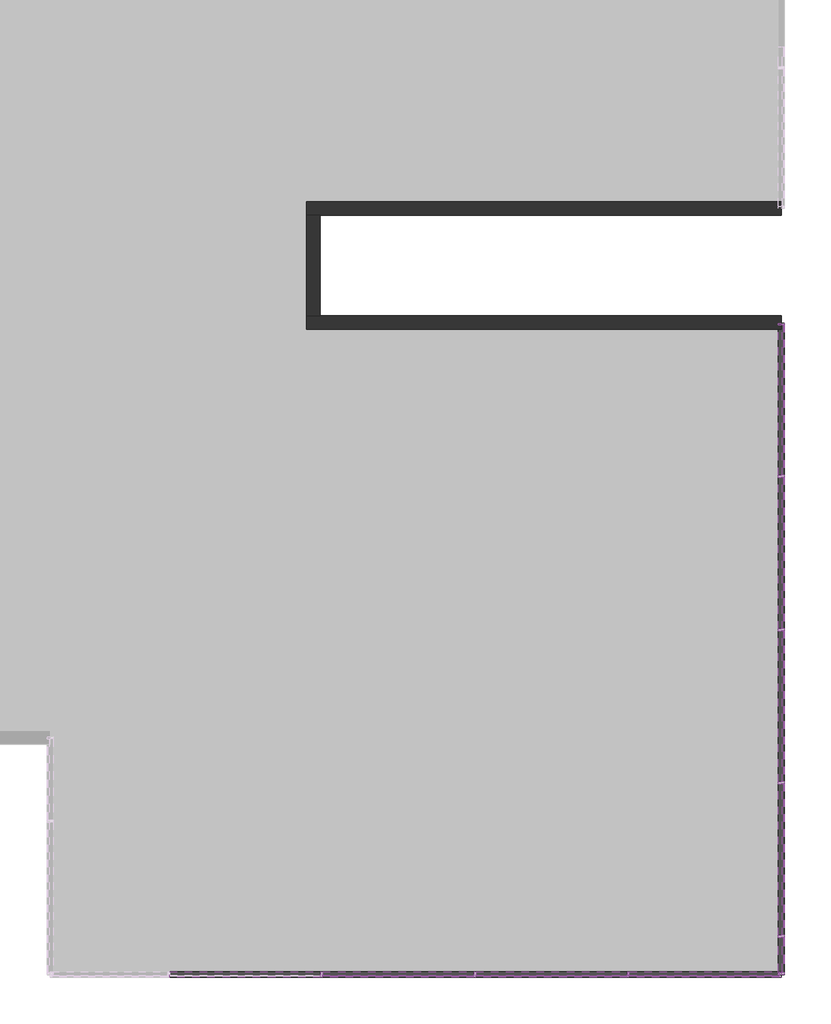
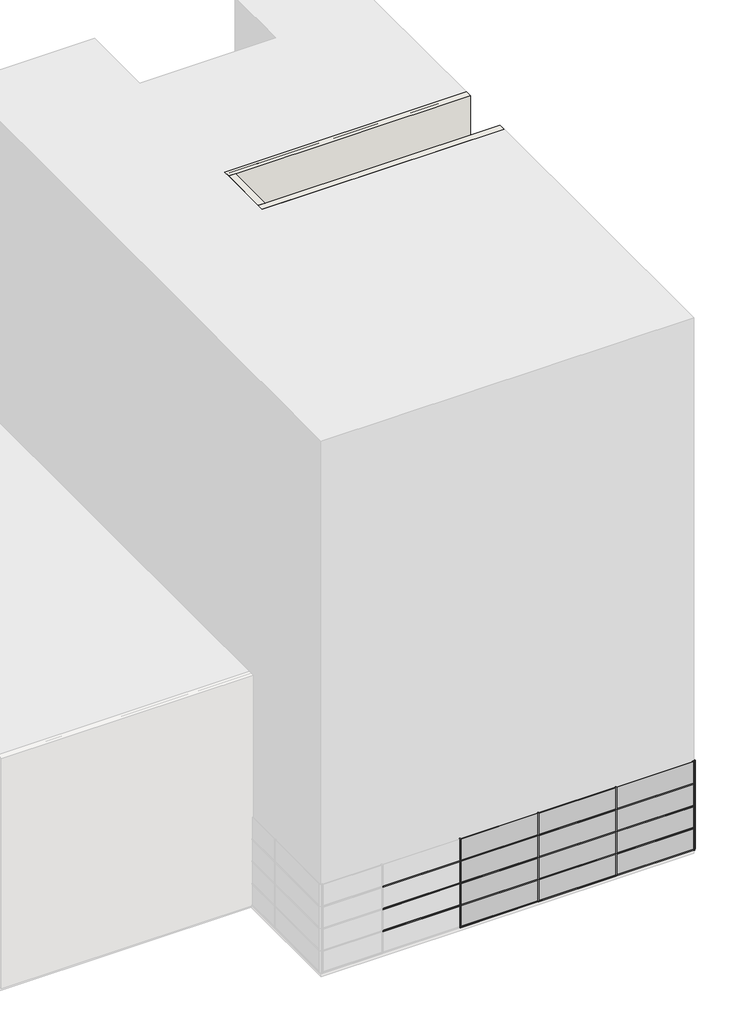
# One storey, part 2 of 4: 76 members, 32 plates, 3 walls.
"""IFC4 building model written with IfcOpenShell, lengths in millimetres."""

from ifc_helpers import new_model, si_unit, origin, origin_with_axes, place, context, project, spatial, polyline, outline, extrude, faceted_brep, transform, mapped, element, save
from components import rectangular_mullion_50_x_150mm_d99dc9be, rectangular_mullion_50_x_150mm_182bfbd5, rectangular_mullion_50_x_150mm_402ab136, rectangular_mullion_50_x_150mm_6588f46c, rectangular_mullion_50_x_150mm_a037c29c, rectangular_mullion_50_x_150mm_c2546fd4, rectangular_mullion_50_x_150mm_116cff39, rectangular_mullion_50_x_150mm_a91aaa2b, system_panel_glazed_ecbc047f, system_panel_glazed_0d1816dc, system_panel_glazed_8e9402eb, system_panel_glazed_89ac83a7, system_panel_glazed_88115445, system_panel_glazed_8c18451d

model = new_model("IFC4")

# Units and contexts
model_context = context("Model", 3, world=origin())
ifc_project = project(units=[si_unit("LENGTHUNIT", "METRE", prefix="MILLI")], contexts=[model_context])

# Site, building, storey
site = spatial("IfcSite", under=ifc_project)
building = spatial("IfcBuilding", under=site)
storey = spatial("IfcBuildingStorey", under=building, Name="Suteren", Elevation=0.0)

# Members
placement = place(None, origin())
rectangular_mullion_50_x_150mm_shape = rectangular_mullion_50_x_150mm_d99dc9be(model_context)
element("IfcMember", 1, ObjectType="Rectangular Mullion : 50 x 150mm", at=placement, inside=storey, context=model_context, shape_type="MappedRepresentation", body=[
    mapped(rectangular_mullion_50_x_150mm_shape, transform((13503.2660975, -10624.0160434, 2400.0), x_axis=(0.0, -1.0, 0.0), y_axis=(1.0, 0.0, 0.0), z_axis=(0.0, 0.0, 1.0))),
])
element("IfcMember", 2, ObjectType="Rectangular Mullion : 50 x 150mm", at=placement, inside=storey, context=model_context, shape_type="MappedRepresentation", body=[
    mapped(rectangular_mullion_50_x_150mm_shape, transform((13503.2660975, -10624.0160434, 3600.0), x_axis=(0.0, -1.0, 0.0), y_axis=(1.0, 0.0, 0.0), z_axis=(0.0, 0.0, 1.0))),
])
element("IfcMember", 3, ObjectType="Rectangular Mullion : 50 x 150mm", at=placement, inside=storey, context=model_context, shape_type="MappedRepresentation", body=[
    mapped(rectangular_mullion_50_x_150mm_shape, transform((13503.2660975, -10624.0160434, 4800.0), x_axis=(0.0, -1.0, 0.0), y_axis=(1.0, 0.0, 0.0), z_axis=(0.0, 0.0, 1.0))),
])
element("IfcMember", 4, ObjectType="Rectangular Mullion : 50 x 150mm", at=placement, inside=storey, context=model_context, shape_type="MappedRepresentation", body=[
    mapped(rectangular_mullion_50_x_150mm_shape, transform((13503.2660975, -14624.0160434, 2400.0), x_axis=(0.0, -1.0, 0.0), y_axis=(1.0, 0.0, 0.0), z_axis=(0.0, 0.0, 1.0))),
])
element("IfcMember", 5, ObjectType="Rectangular Mullion : 50 x 150mm", at=placement, inside=storey, context=model_context, shape_type="MappedRepresentation", body=[
    mapped(rectangular_mullion_50_x_150mm_shape, transform((13503.2660975, -14624.0160434, 3600.0), x_axis=(0.0, -1.0, 0.0), y_axis=(1.0, 0.0, 0.0), z_axis=(0.0, 0.0, 1.0))),
])
element("IfcMember", 6, ObjectType="Rectangular Mullion : 50 x 150mm", at=placement, inside=storey, context=model_context, shape_type="MappedRepresentation", body=[
    mapped(rectangular_mullion_50_x_150mm_shape, transform((13503.2660975, -14624.0160434, 4800.0), x_axis=(0.0, -1.0, 0.0), y_axis=(1.0, 0.0, 0.0), z_axis=(0.0, 0.0, 1.0))),
])
element("IfcMember", 7, ObjectType="Rectangular Mullion : 50 x 150mm", at=placement, inside=storey, context=model_context, shape_type="MappedRepresentation", body=[
    mapped(rectangular_mullion_50_x_150mm_shape, transform((13503.2660975, -18624.0160434, 2400.0), x_axis=(0.0, -1.0, 0.0), y_axis=(1.0, 0.0, 0.0), z_axis=(0.0, 0.0, 1.0))),
])
element("IfcMember", 8, ObjectType="Rectangular Mullion : 50 x 150mm", at=placement, inside=storey, context=model_context, shape_type="MappedRepresentation", body=[
    mapped(rectangular_mullion_50_x_150mm_shape, transform((13503.2660975, -18624.0160434, 3600.0), x_axis=(0.0, -1.0, 0.0), y_axis=(1.0, 0.0, 0.0), z_axis=(0.0, 0.0, 1.0))),
])
element("IfcMember", 9, ObjectType="Rectangular Mullion : 50 x 150mm", at=placement, inside=storey, context=model_context, shape_type="MappedRepresentation", body=[
    mapped(rectangular_mullion_50_x_150mm_shape, transform((13503.2660975, -18624.0160434, 4800.0), x_axis=(0.0, -1.0, 0.0), y_axis=(1.0, 0.0, 0.0), z_axis=(0.0, 0.0, 1.0))),
])
element("IfcMember", 10, ObjectType="Rectangular Mullion : 50 x 150mm", at=placement, inside=storey, context=model_context, shape_type="MappedRepresentation", body=[
    mapped(rectangular_mullion_50_x_150mm_shape, transform((13503.2660975, -22624.0160434, 2400.0), x_axis=(0.0, -1.0, 0.0), y_axis=(1.0, 0.0, 0.0), z_axis=(0.0, 0.0, 1.0))),
])
element("IfcMember", 11, ObjectType="Rectangular Mullion : 50 x 150mm", at=placement, inside=storey, context=model_context, shape_type="MappedRepresentation", body=[
    mapped(rectangular_mullion_50_x_150mm_shape, transform((13503.2660975, -22624.0160434, 3600.0), x_axis=(0.0, -1.0, 0.0), y_axis=(1.0, 0.0, 0.0), z_axis=(0.0, 0.0, 1.0))),
])
element("IfcMember", 12, ObjectType="Rectangular Mullion : 50 x 150mm", at=placement, inside=storey, context=model_context, shape_type="MappedRepresentation", body=[
    mapped(rectangular_mullion_50_x_150mm_shape, transform((13503.2660975, -22624.0160434, 4800.0), x_axis=(0.0, -1.0, 0.0), y_axis=(1.0, 0.0, 0.0), z_axis=(0.0, 0.0, 1.0))),
])
element("IfcMember", 13, ObjectType="Rectangular Mullion : 50 x 150mm", at=placement, inside=storey, context=model_context, shape_type="MappedRepresentation", body=[
    mapped(rectangular_mullion_50_x_150mm_shape, transform((9503.2660975, -23624.0160434, 2400.0), x_axis=(-1.0, 0.0, 0.0), y_axis=(0.0, -1.0, 0.0), z_axis=(0.0, 0.0, 1.0))),
])
element("IfcMember", 14, ObjectType="Rectangular Mullion : 50 x 150mm", at=placement, inside=storey, context=model_context, shape_type="MappedRepresentation", body=[
    mapped(rectangular_mullion_50_x_150mm_shape, transform((9503.2660975, -23624.0160434, 3600.0), x_axis=(-1.0, 0.0, 0.0), y_axis=(0.0, -1.0, 0.0), z_axis=(0.0, 0.0, 1.0))),
])
element("IfcMember", 15, ObjectType="Rectangular Mullion : 50 x 150mm", at=placement, inside=storey, context=model_context, shape_type="MappedRepresentation", body=[
    mapped(rectangular_mullion_50_x_150mm_shape, transform((9503.2660975, -23624.0160434, 4800.0), x_axis=(-1.0, 0.0, 0.0), y_axis=(0.0, -1.0, 0.0), z_axis=(0.0, 0.0, 1.0))),
])
element("IfcMember", 16, ObjectType="Rectangular Mullion : 50 x 150mm", at=placement, inside=storey, context=model_context, shape_type="MappedRepresentation", body=[
    mapped(rectangular_mullion_50_x_150mm_shape, transform((5503.2660975, -23624.0160434, 2400.0), x_axis=(-1.0, 0.0, 0.0), y_axis=(0.0, -1.0, 0.0), z_axis=(0.0, 0.0, 1.0))),
])
element("IfcMember", 17, ObjectType="Rectangular Mullion : 50 x 150mm", at=placement, inside=storey, context=model_context, shape_type="MappedRepresentation", body=[
    mapped(rectangular_mullion_50_x_150mm_shape, transform((5503.2660975, -23624.0160434, 3600.0), x_axis=(-1.0, 0.0, 0.0), y_axis=(0.0, -1.0, 0.0), z_axis=(0.0, 0.0, 1.0))),
])
element("IfcMember", 18, ObjectType="Rectangular Mullion : 50 x 150mm", at=placement, inside=storey, context=model_context, shape_type="MappedRepresentation", body=[
    mapped(rectangular_mullion_50_x_150mm_shape, transform((5503.2660975, -23624.0160434, 4800.0), x_axis=(-1.0, 0.0, 0.0), y_axis=(0.0, -1.0, 0.0), z_axis=(0.0, 0.0, 1.0))),
])
element("IfcMember", 19, ObjectType="Rectangular Mullion : 50 x 150mm", at=placement, inside=storey, context=model_context, shape_type="MappedRepresentation", body=[
    mapped(rectangular_mullion_50_x_150mm_shape, transform((1503.2660975, -23624.0160434, 2400.0), x_axis=(-1.0, 0.0, 0.0), y_axis=(0.0, -1.0, 0.0), z_axis=(0.0, 0.0, 1.0))),
])
element("IfcMember", 20, ObjectType="Rectangular Mullion : 50 x 150mm", at=placement, inside=storey, context=model_context, shape_type="MappedRepresentation", body=[
    mapped(rectangular_mullion_50_x_150mm_shape, transform((1503.2660975, -23624.0160434, 3600.0), x_axis=(-1.0, 0.0, 0.0), y_axis=(0.0, -1.0, 0.0), z_axis=(0.0, 0.0, 1.0))),
])
element("IfcMember", 21, ObjectType="Rectangular Mullion : 50 x 150mm", at=placement, inside=storey, context=model_context, shape_type="MappedRepresentation", body=[
    mapped(rectangular_mullion_50_x_150mm_shape, transform((1503.2660975, -23624.0160434, 4800.0), x_axis=(-1.0, 0.0, 0.0), y_axis=(0.0, -1.0, 0.0), z_axis=(0.0, 0.0, 1.0))),
])
element("IfcMember", 22, ObjectType="Rectangular Mullion : 50 x 150mm", at=placement, inside=storey, context=model_context, shape_type="MappedRepresentation", body=[
    mapped(rectangular_mullion_50_x_150mm_shape, transform((13503.2660975, -10624.0160434, 1200.0), x_axis=(0.0, -1.0, 0.0), y_axis=(1.0, 0.0, 0.0), z_axis=(0.0, 0.0, 1.0))),
])
element("IfcMember", 23, ObjectType="Rectangular Mullion : 50 x 150mm", at=placement, inside=storey, context=model_context, shape_type="MappedRepresentation", body=[
    mapped(rectangular_mullion_50_x_150mm_shape, transform((13503.2660975, -14624.0160434, 1200.0), x_axis=(0.0, -1.0, 0.0), y_axis=(1.0, 0.0, 0.0), z_axis=(0.0, 0.0, 1.0))),
])
element("IfcMember", 24, ObjectType="Rectangular Mullion : 50 x 150mm", at=placement, inside=storey, context=model_context, shape_type="MappedRepresentation", body=[
    mapped(rectangular_mullion_50_x_150mm_shape, transform((13503.2660975, -18624.0160434, 1200.0), x_axis=(0.0, -1.0, 0.0), y_axis=(1.0, 0.0, 0.0), z_axis=(0.0, 0.0, 1.0))),
])
element("IfcMember", 25, ObjectType="Rectangular Mullion : 50 x 150mm", at=placement, inside=storey, context=model_context, shape_type="MappedRepresentation", body=[
    mapped(rectangular_mullion_50_x_150mm_shape, transform((13503.2660975, -22624.0160434, 1200.0), x_axis=(0.0, -1.0, 0.0), y_axis=(1.0, 0.0, 0.0), z_axis=(0.0, 0.0, 1.0))),
])
element("IfcMember", 26, ObjectType="Rectangular Mullion : 50 x 150mm", at=placement, inside=storey, context=model_context, shape_type="MappedRepresentation", body=[
    mapped(rectangular_mullion_50_x_150mm_shape, transform((9503.2660975, -23624.0160434, 1200.0), x_axis=(-1.0, 0.0, 0.0), y_axis=(0.0, -1.0, 0.0), z_axis=(0.0, 0.0, 1.0))),
])
element("IfcMember", 27, ObjectType="Rectangular Mullion : 50 x 150mm", at=placement, inside=storey, context=model_context, shape_type="MappedRepresentation", body=[
    mapped(rectangular_mullion_50_x_150mm_shape, transform((5503.2660975, -23624.0160434, 1200.0), x_axis=(-1.0, 0.0, 0.0), y_axis=(0.0, -1.0, 0.0), z_axis=(0.0, 0.0, 1.0))),
])
element("IfcMember", 28, ObjectType="Rectangular Mullion : 50 x 150mm", at=placement, inside=storey, context=model_context, shape_type="MappedRepresentation", body=[
    mapped(rectangular_mullion_50_x_150mm_shape, transform((1503.2660975, -23624.0160434, 1200.0), x_axis=(-1.0, 0.0, 0.0), y_axis=(0.0, -1.0, 0.0), z_axis=(0.0, 0.0, 1.0))),
])
rectangular_mullion_50_x_150mm_2_shape = rectangular_mullion_50_x_150mm_182bfbd5(model_context)
element("IfcMember", 29, ObjectType="Rectangular Mullion : 50 x 150mm", at=placement, inside=storey, context=model_context, shape_type="MappedRepresentation", body=[
    mapped(rectangular_mullion_50_x_150mm_2_shape, transform((13503.2660975, -14599.0160434, 0.0), x_axis=(0.0, 0.0, -1.0), y_axis=(1.0, 0.0, 0.0), z_axis=(0.0, -1.0, 0.0))),
])
element("IfcMember", 30, ObjectType="Rectangular Mullion : 50 x 150mm", at=placement, inside=storey, context=model_context, shape_type="MappedRepresentation", body=[
    mapped(rectangular_mullion_50_x_150mm_2_shape, transform((13503.2660975, -18599.0160434, 0.0), x_axis=(0.0, 0.0, -1.0), y_axis=(1.0, 0.0, 0.0), z_axis=(0.0, -1.0, 0.0))),
])
element("IfcMember", 31, ObjectType="Rectangular Mullion : 50 x 150mm", at=placement, inside=storey, context=model_context, shape_type="MappedRepresentation", body=[
    mapped(rectangular_mullion_50_x_150mm_2_shape, transform((13503.2660975, -22599.0160434, 0.0), x_axis=(0.0, 0.0, -1.0), y_axis=(1.0, 0.0, 0.0), z_axis=(0.0, -1.0, 0.0))),
])
element("IfcMember", 32, ObjectType="Rectangular Mullion : 50 x 150mm", at=placement, inside=storey, context=model_context, shape_type="MappedRepresentation", body=[
    mapped(rectangular_mullion_50_x_150mm_2_shape, transform((5528.2660975, -23624.0160434, 0.0), x_axis=(0.0, 0.0, -1.0), y_axis=(0.0, -1.0, 0.0), z_axis=(-1.0, 0.0, 0.0))),
])
element("IfcMember", 33, ObjectType="Rectangular Mullion : 50 x 150mm", at=placement, inside=storey, context=model_context, shape_type="MappedRepresentation", body=[
    mapped(rectangular_mullion_50_x_150mm_2_shape, transform((1528.2660975, -23624.0160434, 0.0), x_axis=(0.0, 0.0, -1.0), y_axis=(0.0, -1.0, 0.0), z_axis=(-1.0, 0.0, 0.0))),
])
rectangular_mullion_50_x_150mm_3_shape = rectangular_mullion_50_x_150mm_402ab136(model_context)
element("IfcMember", 34, ObjectType="Rectangular Mullion : 50 x 150mm", at=placement, inside=storey, context=model_context, shape_type="MappedRepresentation", body=[
    mapped(rectangular_mullion_50_x_150mm_3_shape, transform((13503.2660975, -10599.0160434, 0.0), x_axis=(0.0, 0.0, -1.0), y_axis=(1.0, 0.0, 0.0), z_axis=(0.0, -1.0, 0.0))),
])
element("IfcMember", 35, ObjectType="Rectangular Mullion : 50 x 150mm", at=placement, inside=storey, context=model_context, shape_type="MappedRepresentation", body=[
    mapped(rectangular_mullion_50_x_150mm_3_shape, transform((9528.2660975, -23624.0160434, 0.0), x_axis=(0.0, 0.0, -1.0), y_axis=(0.0, -1.0, 0.0), z_axis=(-1.0, 0.0, 0.0))),
])
rectangular_mullion_50_x_150mm_4_shape = rectangular_mullion_50_x_150mm_6588f46c(model_context)
element("IfcMember", 36, ObjectType="Rectangular Mullion : 50 x 150mm", at=placement, inside=storey, context=model_context, shape_type="MappedRepresentation", body=[
    mapped(rectangular_mullion_50_x_150mm_4_shape, transform((13503.2660975, -3624.0160434, 4800.0), x_axis=(0.0, -1.0, 0.0), y_axis=(1.0, 0.0, 0.0), z_axis=(0.0, 0.0, 1.0))),
])
element("IfcMember", 37, ObjectType="Rectangular Mullion : 50 x 150mm", at=placement, inside=storey, context=model_context, shape_type="MappedRepresentation", body=[
    mapped(rectangular_mullion_50_x_150mm_4_shape, transform((13503.2660975, -23624.0160434, 2400.0), x_axis=(0.0, -1.0, 0.0), y_axis=(1.0, 0.0, 0.0), z_axis=(0.0, 0.0, 1.0))),
])
element("IfcMember", 38, ObjectType="Rectangular Mullion : 50 x 150mm", at=placement, inside=storey, context=model_context, shape_type="MappedRepresentation", body=[
    mapped(rectangular_mullion_50_x_150mm_4_shape, transform((13503.2660975, -23624.0160434, 3600.0), x_axis=(0.0, -1.0, 0.0), y_axis=(1.0, 0.0, 0.0), z_axis=(0.0, 0.0, 1.0))),
])
element("IfcMember", 39, ObjectType="Rectangular Mullion : 50 x 150mm", at=placement, inside=storey, context=model_context, shape_type="MappedRepresentation", body=[
    mapped(rectangular_mullion_50_x_150mm_4_shape, transform((13503.2660975, -23624.0160434, 4800.0), x_axis=(0.0, -1.0, 0.0), y_axis=(1.0, 0.0, 0.0), z_axis=(0.0, 0.0, 1.0))),
])
element("IfcMember", 40, ObjectType="Rectangular Mullion : 50 x 150mm", at=placement, inside=storey, context=model_context, shape_type="MappedRepresentation", body=[
    mapped(rectangular_mullion_50_x_150mm_4_shape, transform((13503.2660975, -23624.0160434, 1200.0), x_axis=(0.0, -1.0, 0.0), y_axis=(1.0, 0.0, 0.0), z_axis=(0.0, 0.0, 1.0))),
])
rectangular_mullion_50_x_150mm_5_shape = rectangular_mullion_50_x_150mm_a037c29c(model_context)
element("IfcMember", 41, ObjectType="Rectangular Mullion : 50 x 150mm", at=placement, inside=storey, context=model_context, shape_type="MappedRepresentation", body=[
    mapped(rectangular_mullion_50_x_150mm_5_shape, transform((13503.2660975, -14649.0160434, 1200.0), x_axis=(0.0, 0.0, 1.0), y_axis=(1.0, 0.0, 0.0), z_axis=(0.0, 1.0, 0.0))),
])
element("IfcMember", 42, ObjectType="Rectangular Mullion : 50 x 150mm", at=placement, inside=storey, context=model_context, shape_type="MappedRepresentation", body=[
    mapped(rectangular_mullion_50_x_150mm_5_shape, transform((13503.2660975, -10649.0160434, 1200.0), x_axis=(0.0, 0.0, 1.0), y_axis=(1.0, 0.0, 0.0), z_axis=(0.0, 1.0, 0.0))),
])
element("IfcMember", 43, ObjectType="Rectangular Mullion : 50 x 150mm", at=placement, inside=storey, context=model_context, shape_type="MappedRepresentation", body=[
    mapped(rectangular_mullion_50_x_150mm_5_shape, transform((13503.2660975, -18649.0160434, 3600.0), x_axis=(0.0, 0.0, 1.0), y_axis=(1.0, 0.0, 0.0), z_axis=(0.0, 1.0, 0.0))),
])
element("IfcMember", 44, ObjectType="Rectangular Mullion : 50 x 150mm", at=placement, inside=storey, context=model_context, shape_type="MappedRepresentation", body=[
    mapped(rectangular_mullion_50_x_150mm_5_shape, transform((13503.2660975, -18649.0160434, 1200.0), x_axis=(0.0, 0.0, 1.0), y_axis=(1.0, 0.0, 0.0), z_axis=(0.0, 1.0, 0.0))),
])
element("IfcMember", 45, ObjectType="Rectangular Mullion : 50 x 150mm", at=placement, inside=storey, context=model_context, shape_type="MappedRepresentation", body=[
    mapped(rectangular_mullion_50_x_150mm_5_shape, transform((13503.2660975, -10649.0160434, 2400.0), x_axis=(0.0, 0.0, 1.0), y_axis=(1.0, 0.0, 0.0), z_axis=(0.0, 1.0, 0.0))),
])
element("IfcMember", 46, ObjectType="Rectangular Mullion : 50 x 150mm", at=placement, inside=storey, context=model_context, shape_type="MappedRepresentation", body=[
    mapped(rectangular_mullion_50_x_150mm_5_shape, transform((13503.2660975, -14649.0160434, 2400.0), x_axis=(0.0, 0.0, 1.0), y_axis=(1.0, 0.0, 0.0), z_axis=(0.0, 1.0, 0.0))),
])
element("IfcMember", 47, ObjectType="Rectangular Mullion : 50 x 150mm", at=placement, inside=storey, context=model_context, shape_type="MappedRepresentation", body=[
    mapped(rectangular_mullion_50_x_150mm_5_shape, transform((13503.2660975, -18649.0160434, 2400.0), x_axis=(0.0, 0.0, 1.0), y_axis=(1.0, 0.0, 0.0), z_axis=(0.0, 1.0, 0.0))),
])
element("IfcMember", 48, ObjectType="Rectangular Mullion : 50 x 150mm", at=placement, inside=storey, context=model_context, shape_type="MappedRepresentation", body=[
    mapped(rectangular_mullion_50_x_150mm_5_shape, transform((13503.2660975, -10649.0160434, 3600.0), x_axis=(0.0, 0.0, 1.0), y_axis=(1.0, 0.0, 0.0), z_axis=(0.0, 1.0, 0.0))),
])
element("IfcMember", 49, ObjectType="Rectangular Mullion : 50 x 150mm", at=placement, inside=storey, context=model_context, shape_type="MappedRepresentation", body=[
    mapped(rectangular_mullion_50_x_150mm_5_shape, transform((13503.2660975, -14649.0160434, 3600.0), x_axis=(0.0, 0.0, 1.0), y_axis=(1.0, 0.0, 0.0), z_axis=(0.0, 1.0, 0.0))),
])
element("IfcMember", 50, ObjectType="Rectangular Mullion : 50 x 150mm", at=placement, inside=storey, context=model_context, shape_type="MappedRepresentation", body=[
    mapped(rectangular_mullion_50_x_150mm_5_shape, transform((5478.2660975, -23624.0160434, 3600.0), x_axis=(0.0, 0.0, 1.0), y_axis=(0.0, -1.0, 0.0), z_axis=(1.0, 0.0, 0.0))),
])
element("IfcMember", 51, ObjectType="Rectangular Mullion : 50 x 150mm", at=placement, inside=storey, context=model_context, shape_type="MappedRepresentation", body=[
    mapped(rectangular_mullion_50_x_150mm_5_shape, transform((1478.2660975, -23624.0160434, 3600.0), x_axis=(0.0, 0.0, 1.0), y_axis=(0.0, -1.0, 0.0), z_axis=(1.0, 0.0, 0.0))),
])
element("IfcMember", 52, ObjectType="Rectangular Mullion : 50 x 150mm", at=placement, inside=storey, context=model_context, shape_type="MappedRepresentation", body=[
    mapped(rectangular_mullion_50_x_150mm_5_shape, transform((5478.2660975, -23624.0160434, 1200.0), x_axis=(0.0, 0.0, 1.0), y_axis=(0.0, -1.0, 0.0), z_axis=(1.0, 0.0, 0.0))),
])
element("IfcMember", 53, ObjectType="Rectangular Mullion : 50 x 150mm", at=placement, inside=storey, context=model_context, shape_type="MappedRepresentation", body=[
    mapped(rectangular_mullion_50_x_150mm_5_shape, transform((1478.2660975, -23624.0160434, 1200.0), x_axis=(0.0, 0.0, 1.0), y_axis=(0.0, -1.0, 0.0), z_axis=(1.0, 0.0, 0.0))),
])
element("IfcMember", 54, ObjectType="Rectangular Mullion : 50 x 150mm", at=placement, inside=storey, context=model_context, shape_type="MappedRepresentation", body=[
    mapped(rectangular_mullion_50_x_150mm_5_shape, transform((9478.2660975, -23624.0160434, 2400.0), x_axis=(0.0, 0.0, 1.0), y_axis=(0.0, -1.0, 0.0), z_axis=(1.0, 0.0, 0.0))),
])
element("IfcMember", 55, ObjectType="Rectangular Mullion : 50 x 150mm", at=placement, inside=storey, context=model_context, shape_type="MappedRepresentation", body=[
    mapped(rectangular_mullion_50_x_150mm_5_shape, transform((5478.2660975, -23624.0160434, 2400.0), x_axis=(0.0, 0.0, 1.0), y_axis=(0.0, -1.0, 0.0), z_axis=(1.0, 0.0, 0.0))),
])
element("IfcMember", 56, ObjectType="Rectangular Mullion : 50 x 150mm", at=placement, inside=storey, context=model_context, shape_type="MappedRepresentation", body=[
    mapped(rectangular_mullion_50_x_150mm_5_shape, transform((1478.2660975, -23624.0160434, 2400.0), x_axis=(0.0, 0.0, 1.0), y_axis=(0.0, -1.0, 0.0), z_axis=(1.0, 0.0, 0.0))),
])
element("IfcMember", 57, ObjectType="Rectangular Mullion : 50 x 150mm", at=placement, inside=storey, context=model_context, shape_type="MappedRepresentation", body=[
    mapped(rectangular_mullion_50_x_150mm_5_shape, transform((9478.2660975, -23624.0160434, 3600.0), x_axis=(0.0, 0.0, 1.0), y_axis=(0.0, -1.0, 0.0), z_axis=(1.0, 0.0, 0.0))),
])
element("IfcMember", 58, ObjectType="Rectangular Mullion : 50 x 150mm", at=placement, inside=storey, context=model_context, shape_type="MappedRepresentation", body=[
    mapped(rectangular_mullion_50_x_150mm_5_shape, transform((9478.2660975, -23624.0160434, 1200.0), x_axis=(0.0, 0.0, 1.0), y_axis=(0.0, -1.0, 0.0), z_axis=(1.0, 0.0, 0.0))),
])
rectangular_mullion_50_x_150mm_6_shape = rectangular_mullion_50_x_150mm_c2546fd4(model_context)
element("IfcMember", 59, ObjectType="Rectangular Mullion : 50 x 150mm", at=placement, inside=storey, context=model_context, shape_type="MappedRepresentation", body=[
    mapped(rectangular_mullion_50_x_150mm_6_shape, transform((13503.2660975, -6674.0160434, 1200.0), x_axis=(0.0, 0.0, 1.0), y_axis=(1.0, 0.0, 0.0), z_axis=(0.0, 1.0, 0.0))),
])
element("IfcMember", 60, ObjectType="Rectangular Mullion : 50 x 150mm", at=placement, inside=storey, context=model_context, shape_type="MappedRepresentation", body=[
    mapped(rectangular_mullion_50_x_150mm_6_shape, transform((13503.2660975, -6674.0160434, 2400.0), x_axis=(0.0, 0.0, 1.0), y_axis=(1.0, 0.0, 0.0), z_axis=(0.0, 1.0, 0.0))),
])
element("IfcMember", 61, ObjectType="Rectangular Mullion : 50 x 150mm", at=placement, inside=storey, context=model_context, shape_type="MappedRepresentation", body=[
    mapped(rectangular_mullion_50_x_150mm_6_shape, transform((13503.2660975, -6674.0160434, 3600.0), x_axis=(0.0, 0.0, 1.0), y_axis=(1.0, 0.0, 0.0), z_axis=(0.0, 1.0, 0.0))),
])
element("IfcMember", 62, ObjectType="Rectangular Mullion : 50 x 150mm", at=placement, inside=storey, context=model_context, shape_type="MappedRepresentation", body=[
    mapped(rectangular_mullion_50_x_150mm_6_shape, transform((13453.2660975, -23624.0160434, 2400.0), x_axis=(0.0, 0.0, 1.0), y_axis=(0.0, -1.0, 0.0), z_axis=(1.0, 0.0, 0.0))),
])
element("IfcMember", 63, ObjectType="Rectangular Mullion : 50 x 150mm", at=placement, inside=storey, context=model_context, shape_type="MappedRepresentation", body=[
    mapped(rectangular_mullion_50_x_150mm_6_shape, transform((13453.2660975, -23624.0160434, 3600.0), x_axis=(0.0, 0.0, 1.0), y_axis=(0.0, -1.0, 0.0), z_axis=(1.0, 0.0, 0.0))),
])
element("IfcMember", 64, ObjectType="Rectangular Mullion : 50 x 150mm", at=placement, inside=storey, context=model_context, shape_type="MappedRepresentation", body=[
    mapped(rectangular_mullion_50_x_150mm_6_shape, transform((13453.2660975, -23624.0160434, 1200.0), x_axis=(0.0, 0.0, 1.0), y_axis=(0.0, -1.0, 0.0), z_axis=(1.0, 0.0, 0.0))),
])
element("IfcMember", 65, ObjectType="Rectangular Mullion : 50 x 150mm", at=placement, inside=storey, context=model_context, shape_type="MappedRepresentation", body=[
    mapped(rectangular_mullion_50_x_150mm_4_shape, transform((13503.2660975, -6624.0160434, 1200.0), x_axis=(0.0, 1.0, 0.0), y_axis=(1.0, 0.0, 0.0), z_axis=(0.0, 0.0, -1.0))),
])
element("IfcMember", 66, ObjectType="Rectangular Mullion : 50 x 150mm", at=placement, inside=storey, context=model_context, shape_type="MappedRepresentation", body=[
    mapped(rectangular_mullion_50_x_150mm_4_shape, transform((13503.2660975, -6624.0160434, 2400.0), x_axis=(0.0, 1.0, 0.0), y_axis=(1.0, 0.0, 0.0), z_axis=(0.0, 0.0, -1.0))),
])
element("IfcMember", 67, ObjectType="Rectangular Mullion : 50 x 150mm", at=placement, inside=storey, context=model_context, shape_type="MappedRepresentation", body=[
    mapped(rectangular_mullion_50_x_150mm_4_shape, transform((13503.2660975, -6624.0160434, 3600.0), x_axis=(0.0, 1.0, 0.0), y_axis=(1.0, 0.0, 0.0), z_axis=(0.0, 0.0, -1.0))),
])
element("IfcMember", 68, ObjectType="Rectangular Mullion : 50 x 150mm", at=placement, inside=storey, context=model_context, shape_type="MappedRepresentation", body=[
    mapped(rectangular_mullion_50_x_150mm_4_shape, transform((13503.2660975, -23624.0160434, 1200.0), x_axis=(1.0, 0.0, 0.0), y_axis=(0.0, -1.0, 0.0), z_axis=(0.0, 0.0, -1.0))),
])
element("IfcMember", 69, ObjectType="Rectangular Mullion : 50 x 150mm", at=placement, inside=storey, context=model_context, shape_type="MappedRepresentation", body=[
    mapped(rectangular_mullion_50_x_150mm_4_shape, transform((13503.2660975, -23624.0160434, 2400.0), x_axis=(1.0, 0.0, 0.0), y_axis=(0.0, -1.0, 0.0), z_axis=(0.0, 0.0, -1.0))),
])
element("IfcMember", 70, ObjectType="Rectangular Mullion : 50 x 150mm", at=placement, inside=storey, context=model_context, shape_type="MappedRepresentation", body=[
    mapped(rectangular_mullion_50_x_150mm_4_shape, transform((13503.2660975, -23624.0160434, 3600.0), x_axis=(1.0, 0.0, 0.0), y_axis=(0.0, -1.0, 0.0), z_axis=(0.0, 0.0, -1.0))),
])
element("IfcMember", 71, ObjectType="Rectangular Mullion : 50 x 150mm", at=placement, inside=storey, context=model_context, shape_type="MappedRepresentation", body=[
    mapped(rectangular_mullion_50_x_150mm_4_shape, transform((13503.2660975, -6624.0160434, 0.0), x_axis=(0.0, 1.0, 0.0), y_axis=(1.0, 0.0, 0.0), z_axis=(0.0, 0.0, -1.0))),
])
element("IfcMember", 72, ObjectType="Rectangular Mullion : 50 x 150mm", at=placement, inside=storey, context=model_context, shape_type="MappedRepresentation", body=[
    mapped(rectangular_mullion_50_x_150mm_4_shape, transform((13503.2660975, -23624.0160434, 0.0), x_axis=(1.0, 0.0, 0.0), y_axis=(0.0, -1.0, 0.0), z_axis=(0.0, 0.0, -1.0))),
])
rectangular_mullion_50_x_150mm_7_shape = rectangular_mullion_50_x_150mm_116cff39(model_context)
element("IfcMember", 73, ObjectType="Rectangular Mullion : 50 x 150mm", at=placement, inside=storey, context=model_context, shape_type="MappedRepresentation", body=[
    mapped(rectangular_mullion_50_x_150mm_7_shape, transform((13503.2660975, -22649.0160434, 3600.0), x_axis=(0.0, 0.0, 1.0), y_axis=(1.0, 0.0, 0.0), z_axis=(0.0, 1.0, 0.0))),
])
element("IfcMember", 74, ObjectType="Rectangular Mullion : 50 x 150mm", at=placement, inside=storey, context=model_context, shape_type="MappedRepresentation", body=[
    mapped(rectangular_mullion_50_x_150mm_7_shape, transform((13503.2660975, -22649.0160434, 1200.0), x_axis=(0.0, 0.0, 1.0), y_axis=(1.0, 0.0, 0.0), z_axis=(0.0, 1.0, 0.0))),
])
element("IfcMember", 75, ObjectType="Rectangular Mullion : 50 x 150mm", at=placement, inside=storey, context=model_context, shape_type="MappedRepresentation", body=[
    mapped(rectangular_mullion_50_x_150mm_7_shape, transform((13503.2660975, -22649.0160434, 2400.0), x_axis=(0.0, 0.0, 1.0), y_axis=(1.0, 0.0, 0.0), z_axis=(0.0, 1.0, 0.0))),
])
rectangular_mullion_50_x_150mm_8_shape = rectangular_mullion_50_x_150mm_a91aaa2b(model_context)
element("IfcMember", 76, ObjectType="Rectangular Mullion : 50 x 150mm", at=placement, inside=storey, context=model_context, shape_type="MappedRepresentation", body=[
    mapped(rectangular_mullion_50_x_150mm_8_shape, transform((13503.2660975, -23574.0160434, 0.0), x_axis=(0.0, 0.0, -1.0), y_axis=(1.0, 0.0, 0.0), z_axis=(0.0, -1.0, 0.0))),
])

# Plates
system_panel_glazed_shape = system_panel_glazed_ecbc047f(model_context)
element("IfcPlate", 77, ObjectType="System Panel : Glazed", at=placement, inside=storey, context=model_context, shape_type="MappedRepresentation", body=[
    mapped(system_panel_glazed_shape, transform((11490.7660975, -23624.0160434, 50.0), x_axis=(-1.0, 0.0, 0.0), y_axis=(0.0, -1.0, 0.0), z_axis=(0.0, 0.0, 1.0))),
])
element("IfcPlate", 78, ObjectType="System Panel : Glazed", at=placement, inside=storey, context=model_context, shape_type="MappedRepresentation", body=[
    mapped(system_panel_glazed_shape, transform((13503.2660975, -8636.5160434, 50.0), x_axis=(0.0, -1.0, 0.0), y_axis=(1.0, 0.0, 0.0), z_axis=(0.0, 0.0, 1.0))),
])
system_panel_glazed_2_shape = system_panel_glazed_0d1816dc(model_context)
element("IfcPlate", 79, ObjectType="System Panel : Glazed", at=placement, inside=storey, context=model_context, shape_type="MappedRepresentation", body=[
    mapped(system_panel_glazed_2_shape, transform((7503.2660975, -23624.0160434, 50.0), x_axis=(-1.0, 0.0, 0.0), y_axis=(0.0, -1.0, 0.0), z_axis=(0.0, 0.0, 1.0))),
])
element("IfcPlate", 80, ObjectType="System Panel : Glazed", at=placement, inside=storey, context=model_context, shape_type="MappedRepresentation", body=[
    mapped(system_panel_glazed_2_shape, transform((3503.2660975, -23624.0160434, 50.0), x_axis=(-1.0, 0.0, 0.0), y_axis=(0.0, -1.0, 0.0), z_axis=(0.0, 0.0, 1.0))),
])
element("IfcPlate", 81, ObjectType="System Panel : Glazed", at=placement, inside=storey, context=model_context, shape_type="MappedRepresentation", body=[
    mapped(system_panel_glazed_2_shape, transform((13503.2660975, -12624.0160434, 50.0), x_axis=(0.0, -1.0, 0.0), y_axis=(1.0, 0.0, 0.0), z_axis=(0.0, 0.0, 1.0))),
])
element("IfcPlate", 82, ObjectType="System Panel : Glazed", at=placement, inside=storey, context=model_context, shape_type="MappedRepresentation", body=[
    mapped(system_panel_glazed_2_shape, transform((13503.2660975, -16624.0160434, 50.0), x_axis=(0.0, -1.0, 0.0), y_axis=(1.0, 0.0, 0.0), z_axis=(0.0, 0.0, 1.0))),
])
element("IfcPlate", 83, ObjectType="System Panel : Glazed", at=placement, inside=storey, context=model_context, shape_type="MappedRepresentation", body=[
    mapped(system_panel_glazed_2_shape, transform((13503.2660975, -20624.0160434, 50.0), x_axis=(0.0, -1.0, 0.0), y_axis=(1.0, 0.0, 0.0), z_axis=(0.0, 0.0, 1.0))),
])
system_panel_glazed_3_shape = system_panel_glazed_8e9402eb(model_context)
element("IfcPlate", 84, ObjectType="System Panel : Glazed", at=placement, inside=storey, context=model_context, shape_type="MappedRepresentation", body=[
    mapped(system_panel_glazed_3_shape, transform((11490.7660975, -23624.0160434, 1225.0), x_axis=(-1.0, 0.0, 0.0), y_axis=(0.0, -1.0, 0.0), z_axis=(0.0, 0.0, 1.0))),
])
element("IfcPlate", 85, ObjectType="System Panel : Glazed", at=placement, inside=storey, context=model_context, shape_type="MappedRepresentation", body=[
    mapped(system_panel_glazed_3_shape, transform((11490.7660975, -23624.0160434, 2425.0), x_axis=(-1.0, 0.0, 0.0), y_axis=(0.0, -1.0, 0.0), z_axis=(0.0, 0.0, 1.0))),
])
element("IfcPlate", 86, ObjectType="System Panel : Glazed", at=placement, inside=storey, context=model_context, shape_type="MappedRepresentation", body=[
    mapped(system_panel_glazed_3_shape, transform((11490.7660975, -23624.0160434, 3625.0), x_axis=(-1.0, 0.0, 0.0), y_axis=(0.0, -1.0, 0.0), z_axis=(0.0, 0.0, 1.0))),
])
element("IfcPlate", 87, ObjectType="System Panel : Glazed", at=placement, inside=storey, context=model_context, shape_type="MappedRepresentation", body=[
    mapped(system_panel_glazed_3_shape, transform((13503.2660975, -8636.5160434, 1225.0), x_axis=(0.0, -1.0, 0.0), y_axis=(1.0, 0.0, 0.0), z_axis=(0.0, 0.0, 1.0))),
])
element("IfcPlate", 88, ObjectType="System Panel : Glazed", at=placement, inside=storey, context=model_context, shape_type="MappedRepresentation", body=[
    mapped(system_panel_glazed_3_shape, transform((13503.2660975, -8636.5160434, 2425.0), x_axis=(0.0, -1.0, 0.0), y_axis=(1.0, 0.0, 0.0), z_axis=(0.0, 0.0, 1.0))),
])
element("IfcPlate", 89, ObjectType="System Panel : Glazed", at=placement, inside=storey, context=model_context, shape_type="MappedRepresentation", body=[
    mapped(system_panel_glazed_3_shape, transform((13503.2660975, -8636.5160434, 3625.0), x_axis=(0.0, -1.0, 0.0), y_axis=(1.0, 0.0, 0.0), z_axis=(0.0, 0.0, 1.0))),
])
system_panel_glazed_4_shape = system_panel_glazed_89ac83a7(model_context)
element("IfcPlate", 90, ObjectType="System Panel : Glazed", at=placement, inside=storey, context=model_context, shape_type="MappedRepresentation", body=[
    mapped(system_panel_glazed_4_shape, transform((7503.2660975, -23624.0160434, 1225.0), x_axis=(-1.0, 0.0, 0.0), y_axis=(0.0, -1.0, 0.0), z_axis=(0.0, 0.0, 1.0))),
])
element("IfcPlate", 91, ObjectType="System Panel : Glazed", at=placement, inside=storey, context=model_context, shape_type="MappedRepresentation", body=[
    mapped(system_panel_glazed_4_shape, transform((3503.2660975, -23624.0160434, 1225.0), x_axis=(-1.0, 0.0, 0.0), y_axis=(0.0, -1.0, 0.0), z_axis=(0.0, 0.0, 1.0))),
])
element("IfcPlate", 92, ObjectType="System Panel : Glazed", at=placement, inside=storey, context=model_context, shape_type="MappedRepresentation", body=[
    mapped(system_panel_glazed_4_shape, transform((7503.2660975, -23624.0160434, 2425.0), x_axis=(-1.0, 0.0, 0.0), y_axis=(0.0, -1.0, 0.0), z_axis=(0.0, 0.0, 1.0))),
])
element("IfcPlate", 93, ObjectType="System Panel : Glazed", at=placement, inside=storey, context=model_context, shape_type="MappedRepresentation", body=[
    mapped(system_panel_glazed_4_shape, transform((3503.2660975, -23624.0160434, 2425.0), x_axis=(-1.0, 0.0, 0.0), y_axis=(0.0, -1.0, 0.0), z_axis=(0.0, 0.0, 1.0))),
])
element("IfcPlate", 94, ObjectType="System Panel : Glazed", at=placement, inside=storey, context=model_context, shape_type="MappedRepresentation", body=[
    mapped(system_panel_glazed_4_shape, transform((7503.2660975, -23624.0160434, 3625.0), x_axis=(-1.0, 0.0, 0.0), y_axis=(0.0, -1.0, 0.0), z_axis=(0.0, 0.0, 1.0))),
])
element("IfcPlate", 95, ObjectType="System Panel : Glazed", at=placement, inside=storey, context=model_context, shape_type="MappedRepresentation", body=[
    mapped(system_panel_glazed_4_shape, transform((3503.2660975, -23624.0160434, 3625.0), x_axis=(-1.0, 0.0, 0.0), y_axis=(0.0, -1.0, 0.0), z_axis=(0.0, 0.0, 1.0))),
])
element("IfcPlate", 96, ObjectType="System Panel : Glazed", at=placement, inside=storey, context=model_context, shape_type="MappedRepresentation", body=[
    mapped(system_panel_glazed_4_shape, transform((13503.2660975, -12624.0160434, 1225.0), x_axis=(0.0, -1.0, 0.0), y_axis=(1.0, 0.0, 0.0), z_axis=(0.0, 0.0, 1.0))),
])
element("IfcPlate", 97, ObjectType="System Panel : Glazed", at=placement, inside=storey, context=model_context, shape_type="MappedRepresentation", body=[
    mapped(system_panel_glazed_4_shape, transform((13503.2660975, -16624.0160434, 1225.0), x_axis=(0.0, -1.0, 0.0), y_axis=(1.0, 0.0, 0.0), z_axis=(0.0, 0.0, 1.0))),
])
element("IfcPlate", 98, ObjectType="System Panel : Glazed", at=placement, inside=storey, context=model_context, shape_type="MappedRepresentation", body=[
    mapped(system_panel_glazed_4_shape, transform((13503.2660975, -20624.0160434, 1225.0), x_axis=(0.0, -1.0, 0.0), y_axis=(1.0, 0.0, 0.0), z_axis=(0.0, 0.0, 1.0))),
])
element("IfcPlate", 99, ObjectType="System Panel : Glazed", at=placement, inside=storey, context=model_context, shape_type="MappedRepresentation", body=[
    mapped(system_panel_glazed_4_shape, transform((13503.2660975, -12624.0160434, 2425.0), x_axis=(0.0, -1.0, 0.0), y_axis=(1.0, 0.0, 0.0), z_axis=(0.0, 0.0, 1.0))),
])
element("IfcPlate", 100, ObjectType="System Panel : Glazed", at=placement, inside=storey, context=model_context, shape_type="MappedRepresentation", body=[
    mapped(system_panel_glazed_4_shape, transform((13503.2660975, -16624.0160434, 2425.0), x_axis=(0.0, -1.0, 0.0), y_axis=(1.0, 0.0, 0.0), z_axis=(0.0, 0.0, 1.0))),
])
element("IfcPlate", 101, ObjectType="System Panel : Glazed", at=placement, inside=storey, context=model_context, shape_type="MappedRepresentation", body=[
    mapped(system_panel_glazed_4_shape, transform((13503.2660975, -20624.0160434, 2425.0), x_axis=(0.0, -1.0, 0.0), y_axis=(1.0, 0.0, 0.0), z_axis=(0.0, 0.0, 1.0))),
])
element("IfcPlate", 102, ObjectType="System Panel : Glazed", at=placement, inside=storey, context=model_context, shape_type="MappedRepresentation", body=[
    mapped(system_panel_glazed_4_shape, transform((13503.2660975, -12624.0160434, 3625.0), x_axis=(0.0, -1.0, 0.0), y_axis=(1.0, 0.0, 0.0), z_axis=(0.0, 0.0, 1.0))),
])
element("IfcPlate", 103, ObjectType="System Panel : Glazed", at=placement, inside=storey, context=model_context, shape_type="MappedRepresentation", body=[
    mapped(system_panel_glazed_4_shape, transform((13503.2660975, -16624.0160434, 3625.0), x_axis=(0.0, -1.0, 0.0), y_axis=(1.0, 0.0, 0.0), z_axis=(0.0, 0.0, 1.0))),
])
element("IfcPlate", 104, ObjectType="System Panel : Glazed", at=placement, inside=storey, context=model_context, shape_type="MappedRepresentation", body=[
    mapped(system_panel_glazed_4_shape, transform((13503.2660975, -20624.0160434, 3625.0), x_axis=(0.0, -1.0, 0.0), y_axis=(1.0, 0.0, 0.0), z_axis=(0.0, 0.0, 1.0))),
])
system_panel_glazed_5_shape = system_panel_glazed_88115445(model_context)
element("IfcPlate", 105, ObjectType="System Panel : Glazed", at=placement, inside=storey, context=model_context, shape_type="MappedRepresentation", body=[
    mapped(system_panel_glazed_5_shape, transform((13503.2660975, -23111.5160434, 50.0), x_axis=(0.0, -1.0, 0.0), y_axis=(1.0, 0.0, 0.0), z_axis=(0.0, 0.0, 1.0))),
])
system_panel_glazed_6_shape = system_panel_glazed_8c18451d(model_context)
element("IfcPlate", 106, ObjectType="System Panel : Glazed", at=placement, inside=storey, context=model_context, shape_type="MappedRepresentation", body=[
    mapped(system_panel_glazed_6_shape, transform((13503.2660975, -23111.5160434, 1225.0), x_axis=(0.0, -1.0, 0.0), y_axis=(1.0, 0.0, 0.0), z_axis=(0.0, 0.0, 1.0))),
])
element("IfcPlate", 107, ObjectType="System Panel : Glazed", at=placement, inside=storey, context=model_context, shape_type="MappedRepresentation", body=[
    mapped(system_panel_glazed_6_shape, transform((13503.2660975, -23111.5160434, 2425.0), x_axis=(0.0, -1.0, 0.0), y_axis=(1.0, 0.0, 0.0), z_axis=(0.0, 0.0, 1.0))),
])
element("IfcPlate", 108, ObjectType="System Panel : Glazed", at=placement, inside=storey, context=model_context, shape_type="MappedRepresentation", body=[
    mapped(system_panel_glazed_6_shape, transform((13503.2660975, -23111.5160434, 3625.0), x_axis=(0.0, -1.0, 0.0), y_axis=(1.0, 0.0, 0.0), z_axis=(0.0, 0.0, 1.0))),
])

# Walls
element("IfcWall", 109, ObjectType="Exterior - Brick on Mtl. Stud", at=placement, inside=storey, context=model_context, shape_type="Brep", body=[
    faceted_brep([(13503.2660975, -6439.0160434, 0.0), (1463.419219, -6439.0160434, 0.0), (1113.419219, -6439.0160434, 0.0), (1113.419219, -6439.0160434, 28773.2453384), (1463.419219, -6439.0160434, 28773.2453384), (13503.2660975, -6439.0160434, 28773.2453384), (13503.2660975, -6789.0160434, 0.0), (13503.2660975, -6789.0160434, 28773.2453384), (1113.419219, -6789.0160434, 28773.2453384), (1113.419219, -6789.0160434, 0.0)], [[[0, 1, 2, 3, 4, 5]], [[6, 7, 8, 9]], [[2, 1, 0, 6, 9]], [[5, 4, 3, 8, 7]], [[0, 5, 7, 6]], [[3, 2, 9, 8]]]),
])
element("IfcWall", 110, ObjectType="Exterior - Brick on Mtl. Stud", at=placement, inside=storey, context=model_context, shape_type="Brep", body=[
    faceted_brep([(1113.419219, -3809.0160434, 0.0), (1463.419219, -3809.0160434, 0.0), (13503.2660975, -3809.0160434, 0.0), (13503.2660975, -3809.0160434, 28773.2453384), (1463.419219, -3809.0160434, 28773.2453384), (1113.419219, -3809.0160434, 28773.2453384), (1113.419219, -3459.0160434, 0.0), (1113.419219, -3459.0160434, 28773.2453384), (13503.2660975, -3459.0160434, 28773.2453384), (13503.2660975, -3459.0160434, 0.0)], [[[0, 1, 2, 3, 4, 5]], [[6, 7, 8, 9]], [[2, 1, 0, 6, 9]], [[3, 2, 9, 8]], [[5, 4, 3, 8, 7]], [[0, 5, 7, 6]]]),
])
element("IfcWall", 111, ObjectType="Exterior - Brick on Mtl. Stud", at=placement, inside=storey, context=model_context, shape_type="SweptSolid", body=[
    extrude(outline(polyline([(1463.419219, -3809.0160434), (1463.419219, -6439.0160434), (1113.419219, -6439.0160434), (1113.419219, -3809.0160434), (1463.419219, -3809.0160434)])), origin_with_axes(), (0.0, 0.0, 1.0), 28773.2453384),
])

save(model, "model.ifc")
